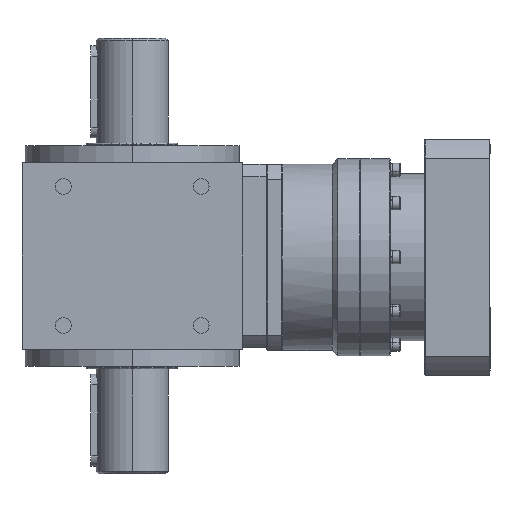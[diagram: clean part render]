
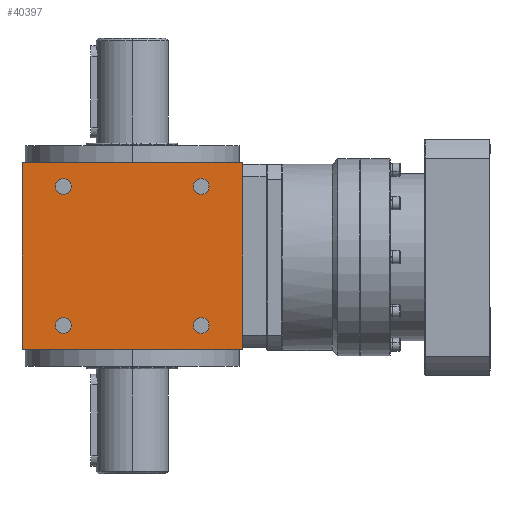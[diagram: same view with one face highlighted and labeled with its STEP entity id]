
A CAD part, left-side view. The second image highlights one B-rep face of the part: STEP entity #40397.
In plain terms, the highlighted planar face has unit normal (-1, 0, 0).
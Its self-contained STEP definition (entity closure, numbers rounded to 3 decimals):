
#433 = AXIS2_PLACEMENT_3D ( 'NONE', #40177, #40589, #14974 ) ;
#840 = EDGE_CURVE ( 'NONE', #5802, #5322, #8214, .T. ) ;
#1237 = DIRECTION ( 'NONE',  ( 1., 0., 0. ) ) ;
#1530 = ORIENTED_EDGE ( 'NONE', *, *, #11180, .T. ) ;
#1698 = ORIENTED_EDGE ( 'NONE', *, *, #34361, .T. ) ;
#2087 = DIRECTION ( 'NONE',  ( 0., 0., -1. ) ) ;
#2340 = EDGE_CURVE ( 'NONE', #5322, #5802, #34590, .T. ) ;
#2377 = PLANE ( 'NONE',  #433 ) ;
#3168 = DIRECTION ( 'NONE',  ( 0., -1., 0. ) ) ;
#3212 = CARTESIAN_POINT ( 'NONE',  ( -84., -52.5, -53. ) ) ;
#3363 = DIRECTION ( 'NONE',  ( 1., 0., 0. ) ) ;
#3442 = DIRECTION ( 'NONE',  ( 0., 0., 1. ) ) ;
#3646 = CARTESIAN_POINT ( 'NONE',  ( -84., 52.5, -53. ) ) ;
#4237 = VERTEX_POINT ( 'NONE', #11441 ) ;
#4561 = EDGE_CURVE ( 'NONE', #5424, #40275, #8839, .T. ) ;
#4605 = CARTESIAN_POINT ( 'NONE',  ( -84., -84., 71. ) ) ;
#4742 = DIRECTION ( 'NONE',  ( 0., -1., 0. ) ) ;
#4839 = CARTESIAN_POINT ( 'NONE',  ( -84., 58.5, 53. ) ) ;
#5322 = VERTEX_POINT ( 'NONE', #18271 ) ;
#5424 = VERTEX_POINT ( 'NONE', #15959 ) ;
#5792 = DIRECTION ( 'NONE',  ( 0., -1., 0. ) ) ;
#5802 = VERTEX_POINT ( 'NONE', #35532 ) ;
#6400 = CARTESIAN_POINT ( 'NONE',  ( -84., -52.5, 53. ) ) ;
#6500 = DIRECTION ( 'NONE',  ( 1., 0., 0. ) ) ;
#6563 = VERTEX_POINT ( 'NONE', #21381 ) ;
#7153 = VERTEX_POINT ( 'NONE', #30365 ) ;
#7668 = EDGE_CURVE ( 'NONE', #39010, #28857, #23488, .T. ) ;
#8124 = AXIS2_PLACEMENT_3D ( 'NONE', #29351, #26671, #39284 ) ;
#8214 = CIRCLE ( 'NONE', #11488, 6. ) ;
#8521 = DIRECTION ( 'NONE',  ( 0., -1., 0. ) ) ;
#8839 = LINE ( 'NONE', #25371, #38205 ) ;
#9206 = ORIENTED_EDGE ( 'NONE', *, *, #14344, .F. ) ;
#9576 = VECTOR ( 'NONE', #27822, 1000. ) ;
#10274 = AXIS2_PLACEMENT_3D ( 'NONE', #19078, #3363, #3168 ) ;
#10423 = CARTESIAN_POINT ( 'NONE',  ( -84., 84., 71. ) ) ;
#11180 = EDGE_CURVE ( 'NONE', #4237, #19071, #28946, .T. ) ;
#11301 = EDGE_CURVE ( 'NONE', #19071, #4237, #30941, .T. ) ;
#11441 = CARTESIAN_POINT ( 'NONE',  ( -84., -58.5, -53. ) ) ;
#11488 = AXIS2_PLACEMENT_3D ( 'NONE', #6400, #15908, #5792 ) ;
#11757 = CARTESIAN_POINT ( 'NONE',  ( -84., -52.5, 53. ) ) ;
#11855 = FACE_BOUND ( 'NONE', #39019, .T. ) ;
#12087 = VECTOR ( 'NONE', #2087, 1000. ) ;
#12441 = CARTESIAN_POINT ( 'NONE',  ( -84., 46.5, 53. ) ) ;
#12485 = AXIS2_PLACEMENT_3D ( 'NONE', #3212, #6500, #16239 ) ;
#13595 = CARTESIAN_POINT ( 'NONE',  ( -84., -46.5, -53. ) ) ;
#13913 = ORIENTED_EDGE ( 'NONE', *, *, #25110, .T. ) ;
#14344 = EDGE_CURVE ( 'NONE', #40275, #22651, #32455, .T. ) ;
#14974 = DIRECTION ( 'NONE',  ( 0., -1., 0. ) ) ;
#15241 = CARTESIAN_POINT ( 'NONE',  ( -84., 0., -71. ) ) ;
#15776 = ORIENTED_EDGE ( 'NONE', *, *, #7668, .T. ) ;
#15908 = DIRECTION ( 'NONE',  ( 1., 0., 0. ) ) ;
#15959 = CARTESIAN_POINT ( 'NONE',  ( -84., 84., -71. ) ) ;
#16239 = DIRECTION ( 'NONE',  ( 0., -1., 0. ) ) ;
#16757 = AXIS2_PLACEMENT_3D ( 'NONE', #11757, #30769, #27055 ) ;
#16771 = DIRECTION ( 'NONE',  ( 0., -1., 0. ) ) ;
#16871 = ORIENTED_EDGE ( 'NONE', *, *, #35913, .F. ) ;
#17352 = CIRCLE ( 'NONE', #8124, 6. ) ;
#18271 = CARTESIAN_POINT ( 'NONE',  ( -84., -58.5, 53. ) ) ;
#18649 = AXIS2_PLACEMENT_3D ( 'NONE', #33955, #24246, #8521 ) ;
#18720 = EDGE_LOOP ( 'NONE', ( #1530, #35819 ) ) ;
#19071 = VERTEX_POINT ( 'NONE', #13595 ) ;
#19078 = CARTESIAN_POINT ( 'NONE',  ( -84., 52.5, 53. ) ) ;
#19107 = AXIS2_PLACEMENT_3D ( 'NONE', #3646, #37198, #35270 ) ;
#20237 = ORIENTED_EDGE ( 'NONE', *, *, #26659, .T. ) ;
#21381 = CARTESIAN_POINT ( 'NONE',  ( -84., 46.5, -53. ) ) ;
#21580 = FACE_BOUND ( 'NONE', #18720, .T. ) ;
#22488 = EDGE_LOOP ( 'NONE', ( #38297, #35351 ) ) ;
#22651 = VERTEX_POINT ( 'NONE', #4605 ) ;
#23379 = CARTESIAN_POINT ( 'NONE',  ( -84., -52.5, -53. ) ) ;
#23488 = CIRCLE ( 'NONE', #10274, 6. ) ;
#23762 = EDGE_LOOP ( 'NONE', ( #25450, #1698, #16871, #9206 ) ) ;
#24222 = CARTESIAN_POINT ( 'NONE',  ( -84., -84., -71. ) ) ;
#24246 = DIRECTION ( 'NONE',  ( 1., 0., 0. ) ) ;
#24405 = EDGE_CURVE ( 'NONE', #35542, #6563, #40865, .T. ) ;
#25011 = AXIS2_PLACEMENT_3D ( 'NONE', #23379, #1237, #4742 ) ;
#25110 = EDGE_CURVE ( 'NONE', #28857, #39010, #31859, .T. ) ;
#25144 = ORIENTED_EDGE ( 'NONE', *, *, #24405, .T. ) ;
#25371 = CARTESIAN_POINT ( 'NONE',  ( -84., 84., -71. ) ) ;
#25450 = ORIENTED_EDGE ( 'NONE', *, *, #4561, .F. ) ;
#26454 = CARTESIAN_POINT ( 'NONE',  ( -84., 0., 71. ) ) ;
#26659 = EDGE_CURVE ( 'NONE', #6563, #35542, #17352, .T. ) ;
#26671 = DIRECTION ( 'NONE',  ( 1., 0., 0. ) ) ;
#27055 = DIRECTION ( 'NONE',  ( 0., -1., 0. ) ) ;
#27822 = DIRECTION ( 'NONE',  ( 0., -1., 0. ) ) ;
#28857 = VERTEX_POINT ( 'NONE', #12441 ) ;
#28946 = CIRCLE ( 'NONE', #12485, 6. ) ;
#29351 = CARTESIAN_POINT ( 'NONE',  ( -84., 52.5, -53. ) ) ;
#30365 = CARTESIAN_POINT ( 'NONE',  ( -84., -84., -71. ) ) ;
#30685 = FACE_OUTER_BOUND ( 'NONE', #23762, .T. ) ;
#30769 = DIRECTION ( 'NONE',  ( 1., 0., 0. ) ) ;
#30812 = LINE ( 'NONE', #24222, #12087 ) ;
#30941 = CIRCLE ( 'NONE', #25011, 6. ) ;
#31859 = CIRCLE ( 'NONE', #18649, 6. ) ;
#32455 = LINE ( 'NONE', #26454, #40842 ) ;
#33562 = CARTESIAN_POINT ( 'NONE',  ( -84., 58.5, -53. ) ) ;
#33955 = CARTESIAN_POINT ( 'NONE',  ( -84., 52.5, 53. ) ) ;
#34361 = EDGE_CURVE ( 'NONE', #5424, #7153, #37758, .T. ) ;
#34378 = FACE_BOUND ( 'NONE', #40525, .T. ) ;
#34590 = CIRCLE ( 'NONE', #16757, 6. ) ;
#35270 = DIRECTION ( 'NONE',  ( 0., -1., 0. ) ) ;
#35351 = ORIENTED_EDGE ( 'NONE', *, *, #840, .T. ) ;
#35532 = CARTESIAN_POINT ( 'NONE',  ( -84., -46.5, 53. ) ) ;
#35542 = VERTEX_POINT ( 'NONE', #33562 ) ;
#35819 = ORIENTED_EDGE ( 'NONE', *, *, #11301, .T. ) ;
#35913 = EDGE_CURVE ( 'NONE', #22651, #7153, #30812, .T. ) ;
#37198 = DIRECTION ( 'NONE',  ( 1., 0., 0. ) ) ;
#37758 = LINE ( 'NONE', #15241, #9576 ) ;
#38205 = VECTOR ( 'NONE', #3442, 1000. ) ;
#38297 = ORIENTED_EDGE ( 'NONE', *, *, #2340, .T. ) ;
#39010 = VERTEX_POINT ( 'NONE', #4839 ) ;
#39019 = EDGE_LOOP ( 'NONE', ( #13913, #15776 ) ) ;
#39284 = DIRECTION ( 'NONE',  ( 0., -1., 0. ) ) ;
#39768 = FACE_BOUND ( 'NONE', #22488, .T. ) ;
#40177 = CARTESIAN_POINT ( 'NONE',  ( -84., 84., -71. ) ) ;
#40275 = VERTEX_POINT ( 'NONE', #10423 ) ;
#40397 = ADVANCED_FACE ( 'NONE', ( #30685, #11855, #39768, #21580, #34378 ), #2377, .T. ) ;
#40525 = EDGE_LOOP ( 'NONE', ( #20237, #25144 ) ) ;
#40589 = DIRECTION ( 'NONE',  ( -1., 0., 0. ) ) ;
#40842 = VECTOR ( 'NONE', #16771, 1000. ) ;
#40865 = CIRCLE ( 'NONE', #19107, 6. ) ;
